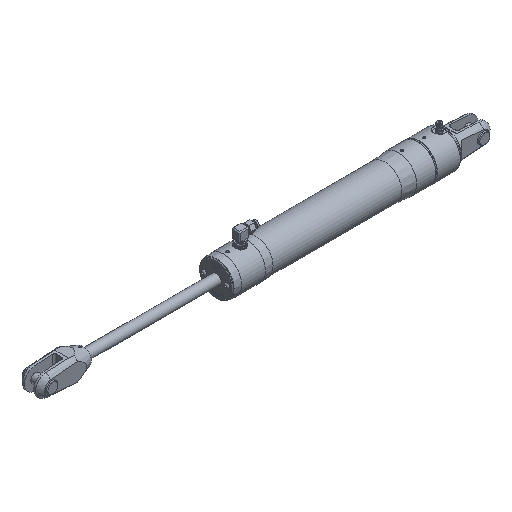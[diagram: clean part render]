
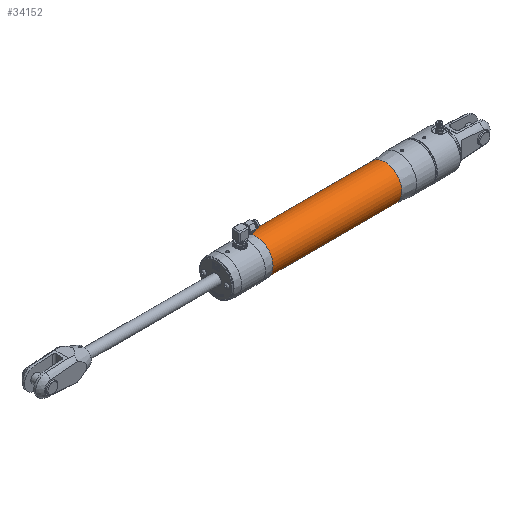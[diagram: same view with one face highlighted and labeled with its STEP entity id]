
A CAD part, isometric view. The second image highlights one B-rep face of the part: STEP entity #34152.
In plain terms, the highlighted cylindrical face has radius 35.6 mm (diameter 71.2 mm), a full revolution.
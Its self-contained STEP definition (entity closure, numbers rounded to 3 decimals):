
#3783=LINE('',#61938,#6734);
#6734=VECTOR('',#41610,35.6);
#7901=CYLINDRICAL_SURFACE('',#35721,35.6);
#9569=FACE_OUTER_BOUND('',#11478,.T.);
#11478=EDGE_LOOP('',(#30076,#30077,#30078,#30079,#30080,#30081));
#11953=CIRCLE('',#35718,35.6);
#11954=CIRCLE('',#35719,35.6);
#11956=CIRCLE('',#35722,35.6);
#11957=CIRCLE('',#35723,35.6);
#16220=VERTEX_POINT('',#61930);
#16221=VERTEX_POINT('',#61932);
#16222=VERTEX_POINT('',#61937);
#16223=VERTEX_POINT('',#61939);
#20869=EDGE_CURVE('',#16221,#16220,#11953,.T.);
#20870=EDGE_CURVE('',#16220,#16221,#11954,.T.);
#20872=EDGE_CURVE('',#16220,#16222,#3783,.T.);
#20873=EDGE_CURVE('',#16223,#16222,#11956,.T.);
#20874=EDGE_CURVE('',#16222,#16223,#11957,.T.);
#30076=ORIENTED_EDGE('',*,*,#20869,.T.);
#30077=ORIENTED_EDGE('',*,*,#20872,.T.);
#30078=ORIENTED_EDGE('',*,*,#20873,.F.);
#30079=ORIENTED_EDGE('',*,*,#20874,.F.);
#30080=ORIENTED_EDGE('',*,*,#20872,.F.);
#30081=ORIENTED_EDGE('',*,*,#20870,.T.);
#34152=ADVANCED_FACE('',(#9569),#7901,.T.);
#35718=AXIS2_PLACEMENT_3D('',#61933,#41602,#41603);
#35719=AXIS2_PLACEMENT_3D('',#61934,#41604,#41605);
#35721=AXIS2_PLACEMENT_3D('',#61936,#41608,#41609);
#35722=AXIS2_PLACEMENT_3D('',#61940,#41611,#41612);
#35723=AXIS2_PLACEMENT_3D('',#61941,#41613,#41614);
#41602=DIRECTION('center_axis',(1.,0.,0.));
#41603=DIRECTION('ref_axis',(0.,0.,-1.));
#41604=DIRECTION('center_axis',(1.,0.,0.));
#41605=DIRECTION('ref_axis',(0.,0.,-1.));
#41608=DIRECTION('center_axis',(1.,0.,0.));
#41609=DIRECTION('ref_axis',(0.,0.,
1.));
#41610=DIRECTION('',(1.,0.,0.));
#41611=DIRECTION('center_axis',(1.,0.,0.));
#41612=DIRECTION('ref_axis',(0.,0.,-1.));
#41613=DIRECTION('center_axis',(1.,0.,0.));
#41614=DIRECTION('ref_axis',(0.,0.,-1.));
#61930=CARTESIAN_POINT('',(-326.734,0.,-35.6));
#61932=CARTESIAN_POINT('',(-326.734,0.,35.6));
#61933=CARTESIAN_POINT('Origin',(-326.734,0.,
0.));
#61934=CARTESIAN_POINT('Origin',(-326.734,0.,
0.));
#61936=CARTESIAN_POINT('Origin',(-192.822,0.,
0.));
#61937=CARTESIAN_POINT('',(-58.911,0.,-35.6));
#61938=CARTESIAN_POINT('',(-192.822,0.,-35.6));
#61939=CARTESIAN_POINT('',(-58.911,0.,35.6));
#61940=CARTESIAN_POINT('Origin',(-58.911,0.,
0.));
#61941=CARTESIAN_POINT('Origin',(-58.911,0.,
0.));
